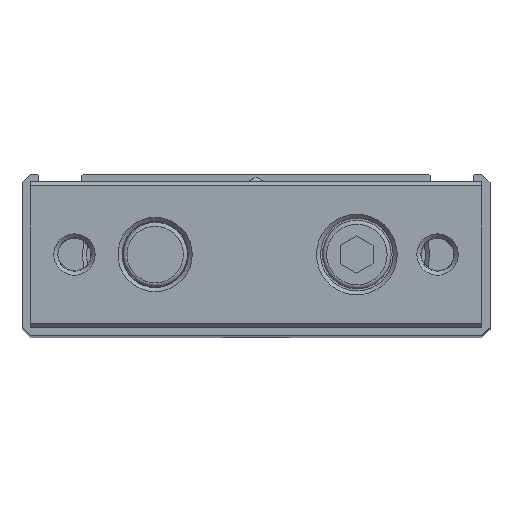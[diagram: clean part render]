
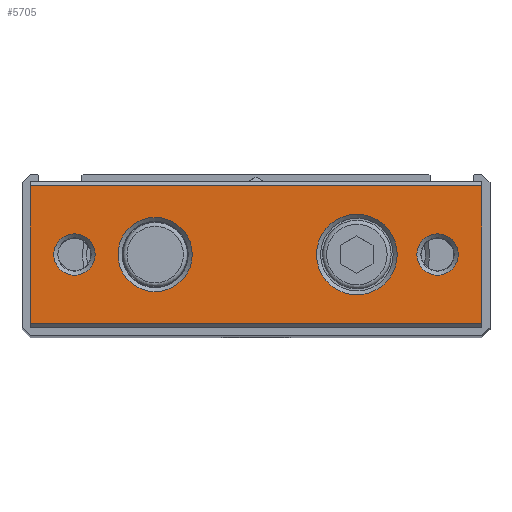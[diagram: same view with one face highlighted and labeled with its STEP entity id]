
A CAD part, top view. The second image highlights one B-rep face of the part: STEP entity #5705.
In plain terms, the highlighted planar face has unit normal (0, 0, 1).
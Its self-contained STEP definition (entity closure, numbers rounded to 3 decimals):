
#3656=CARTESIAN_POINT('',(-28.,-8.5,189.0));
#3657=VERTEX_POINT('',#3656);
#3664=CARTESIAN_POINT('',(-28.,8.5,189.0));
#3665=VERTEX_POINT('',#3664);
#3666=CARTESIAN_POINT('',(-28.,8.5,189.0));
#3667=DIRECTION('',(0.0,-1.0,0.0));
#3668=VECTOR('',#3667,17.0);
#3669=LINE('',#3666,#3668);
#3670=EDGE_CURVE('',#3665,#3657,#3669,.T.);
#3856=CARTESIAN_POINT('',(28.,-8.5,189.0));
#3857=VERTEX_POINT('',#3856);
#3864=CARTESIAN_POINT('',(28.,-8.5,189.0));
#3865=DIRECTION('',(-1.0,0.0,0.0));
#3866=VECTOR('',#3865,56.);
#3867=LINE('',#3864,#3866);
#3868=EDGE_CURVE('',#3857,#3657,#3867,.T.);
#3935=CARTESIAN_POINT('',(28.,8.5,189.0));
#3936=VERTEX_POINT('',#3935);
#3943=CARTESIAN_POINT('',(28.,-8.5,189.0));
#3944=DIRECTION('',(0.0,1.0,0.0));
#3945=VECTOR('',#3944,17.0);
#3946=LINE('',#3943,#3945);
#3947=EDGE_CURVE('',#3857,#3936,#3946,.T.);
#5641=CARTESIAN_POINT('',(17.5,0.,189.0));
#5642=VERTEX_POINT('',#5641);
#5643=CARTESIAN_POINT('',(12.5,0.,189.0));
#5644=DIRECTION('',(0.0,0.0,1.0));
#5645=DIRECTION('',(-1.0,0.0,0.0));
#5646=AXIS2_PLACEMENT_3D('',#5643,#5644,#5645);
#5647=CIRCLE('',#5646,5.0);
#5648=EDGE_CURVE('',#5642,#5642,#5647,.T.);
#5653=CARTESIAN_POINT('',(0.0,-9.,189.0));
#5654=DIRECTION('',(0.0,0.0,1.0));
#5655=DIRECTION('',(1.0,0.0,0.0));
#5656=AXIS2_PLACEMENT_3D('',#5653,#5654,#5655);
#5657=PLANE('',#5656);
#5658=ORIENTED_EDGE('',*,*,#3868,.F.);
#5659=ORIENTED_EDGE('',*,*,#3947,.T.);
#5660=CARTESIAN_POINT('',(-28.,8.5,189.0));
#5661=DIRECTION('',(1.0,0.0,0.0));
#5662=VECTOR('',#5661,56.);
#5663=LINE('',#5660,#5662);
#5664=EDGE_CURVE('',#3665,#3936,#5663,.T.);
#5665=ORIENTED_EDGE('',*,*,#5664,.F.);
#5666=ORIENTED_EDGE('',*,*,#3670,.T.);
#5667=EDGE_LOOP('',(#5658,#5659,#5665,#5666));
#5668=FACE_OUTER_BOUND('',#5667,.T.);
#5669=CARTESIAN_POINT('',(-7.9,0.,189.0));
#5670=VERTEX_POINT('',#5669);
#5671=CARTESIAN_POINT('',(-12.5,0.,189.0));
#5672=DIRECTION('',(0.0,0.0,1.0));
#5673=DIRECTION('',(-1.0,0.0,0.0));
#5674=AXIS2_PLACEMENT_3D('',#5671,#5672,#5673);
#5675=CIRCLE('',#5674,4.6);
#5676=EDGE_CURVE('',#5670,#5670,#5675,.T.);
#5677=ORIENTED_EDGE('',*,*,#5676,.F.);
#5678=EDGE_LOOP('',(#5677));
#5679=FACE_BOUND('',#5678,.T.);
#5680=CARTESIAN_POINT('',(-19.933,0.,189.0));
#5681=VERTEX_POINT('',#5680);
#5682=CARTESIAN_POINT('',(-22.5,0.,189.0));
#5683=DIRECTION('',(0.0,0.0,1.0));
#5684=DIRECTION('',(-1.0,0.0,0.0));
#5685=AXIS2_PLACEMENT_3D('',#5682,#5683,#5684);
#5686=CIRCLE('',#5685,2.567);
#5687=EDGE_CURVE('',#5681,#5681,#5686,.T.);
#5688=ORIENTED_EDGE('',*,*,#5687,.F.);
#5689=EDGE_LOOP('',(#5688));
#5690=FACE_BOUND('',#5689,.T.);
#5691=CARTESIAN_POINT('',(25.067,0.,189.0));
#5692=VERTEX_POINT('',#5691);
#5693=CARTESIAN_POINT('',(22.5,0.,189.0));
#5694=DIRECTION('',(0.0,0.0,1.0));
#5695=DIRECTION('',(-1.0,0.0,0.0));
#5696=AXIS2_PLACEMENT_3D('',#5693,#5694,#5695);
#5697=CIRCLE('',#5696,2.567);
#5698=EDGE_CURVE('',#5692,#5692,#5697,.T.);
#5699=ORIENTED_EDGE('',*,*,#5698,.F.);
#5700=EDGE_LOOP('',(#5699));
#5701=FACE_BOUND('',#5700,.T.);
#5702=ORIENTED_EDGE('',*,*,#5648,.F.);
#5703=EDGE_LOOP('',(#5702));
#5704=FACE_BOUND('',#5703,.T.);
#5705=ADVANCED_FACE('',(#5668,#5679,#5690,#5701,#5704),#5657,.T.);
